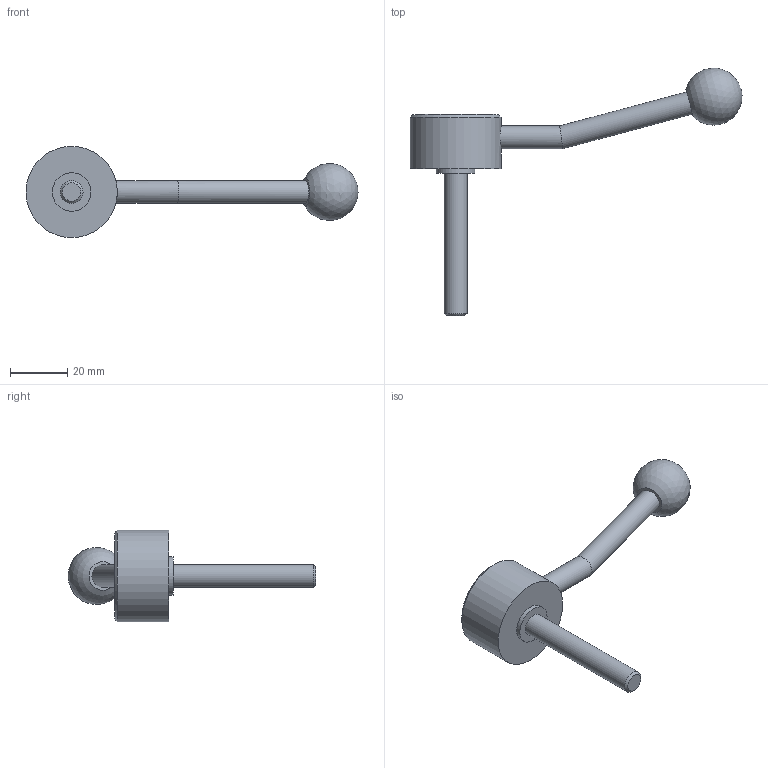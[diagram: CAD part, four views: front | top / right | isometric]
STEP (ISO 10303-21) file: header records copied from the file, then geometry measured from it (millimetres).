
FILE_DESCRIPTION( ( 'STEP AP203' ), '1' );
FILE_NAME( 'C:/Temp/Ganter_Step_05_03_2020/data/2_1/gn_125/gn_125_ms/gn_125_ms_e/Flat Adjustable Lever GN 125-32-M8-50-E.stp', '2020-03-05T11:00:54', ( 'License CC BY-ND 4.0' ), ( 'CADENAS' ), ' ', 'PARTsolutions', ' ' );
FILE_SCHEMA( ( 'CONFIG_CONTROL_DESIGN' ) );
Length unit declared in the file: millimetre
Products named in the file (1): _Flat Adjustable Lever GN 125-32-M8-50-E
Bounding box: 116.33 x 86.72 x 32 mm (x, y, z)
Volume: 25394.2 mm3; surface area: 7638.7 mm2
Topology: 1 solids, 1 shells, 15 faces, 26 edges, 17 vertices
Faces by surface type: cylinder 6, plane 6, cone 2, sphere 1
Full cylindrical faces by diameter (mm): 8 x3, 13.5 x1, 22 x1, 32 x1
Entity records: 404 total; most frequent: CARTESIAN_POINT 110, DIRECTION 58, AXIS2_PLACEMENT_3D 29, EDGE_LOOP 28, ORIENTED_EDGE 28, FACE_OUTER_BOUND 21, ADVANCED_FACE 15, VERTEX_POINT 15
